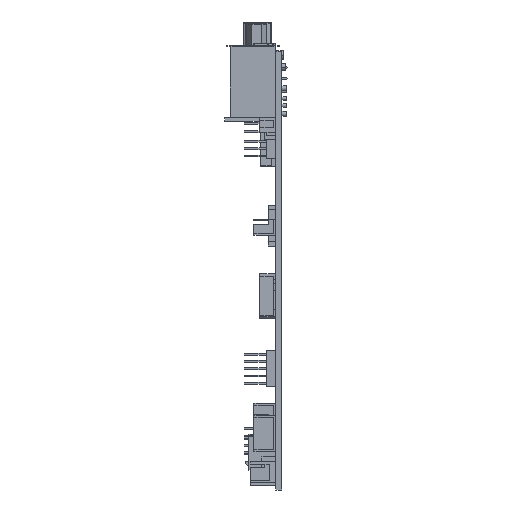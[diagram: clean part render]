
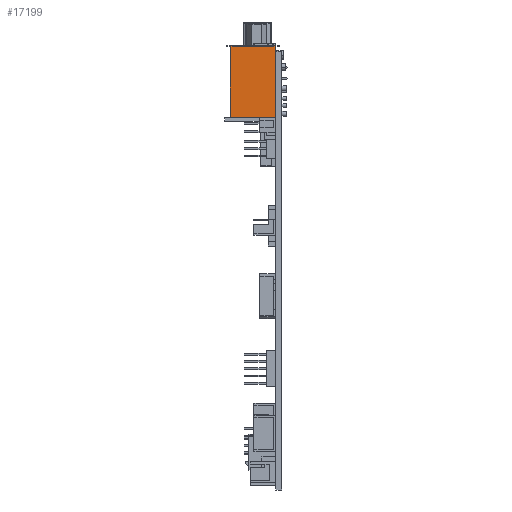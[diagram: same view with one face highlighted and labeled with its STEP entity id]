
A CAD part, left-side view. The second image highlights one B-rep face of the part: STEP entity #17199.
In plain terms, the highlighted planar face has unit normal (-1, 0, 0).
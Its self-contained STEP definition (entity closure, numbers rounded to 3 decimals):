
#180 = CARTESIAN_POINT ( 'NONE',  ( 13.819, 94.312, 188.428 ) ) ;
#1238 = ORIENTED_EDGE ( 'NONE', *, *, #45616, .F. ) ;
#1494 = VECTOR ( 'NONE', #14006, 1000. ) ;
#1788 = CARTESIAN_POINT ( 'NONE',  ( 13.819, 94.312, 188.428 ) ) ;
#2213 = CARTESIAN_POINT ( 'NONE',  ( 13.819, 94.312, 168.728 ) ) ;
#3101 = DIRECTION ( 'NONE',  ( 0., 0., 1. ) ) ;
#4082 = CARTESIAN_POINT ( 'NONE',  ( 13.819, 94.312, 168.728 ) ) ;
#4186 = EDGE_LOOP ( 'NONE', ( #13172, #12673, #47053, #38495, #6018, #4456, #31124, #6241, #23625, #6403, #28104, #1238 ) ) ;
#4456 = ORIENTED_EDGE ( 'NONE', *, *, #11268, .T. ) ;
#5184 = CARTESIAN_POINT ( 'NONE',  ( 13.819, 94.867, 188.428 ) ) ;
#5241 = VECTOR ( 'NONE', #36257, 1000. ) ;
#5852 = EDGE_CURVE ( 'NONE', #31156, #16318, #35708, .T. ) ;
#5894 = DIRECTION ( 'NONE',  ( 0., 0., 1. ) ) ;
#6018 = ORIENTED_EDGE ( 'NONE', *, *, #25395, .F. ) ;
#6241 = ORIENTED_EDGE ( 'NONE', *, *, #30442, .T. ) ;
#6403 = ORIENTED_EDGE ( 'NONE', *, *, #41467, .T. ) ;
#6500 = EDGE_CURVE ( 'NONE', #32785, #17979, #33671, .T. ) ;
#7746 = LINE ( 'NONE', #41483, #24609 ) ;
#8541 = VECTOR ( 'NONE', #46763, 1000. ) ;
#8565 = CARTESIAN_POINT ( 'NONE',  ( 13.819, 94.312, 188.428 ) ) ;
#8937 = EDGE_CURVE ( 'NONE', #11216, #10734, #32342, .T. ) ;
#9104 = CARTESIAN_POINT ( 'NONE',  ( 13.819, 106.256, 188.174 ) ) ;
#9794 = DIRECTION ( 'NONE',  ( 0., 0., 1. ) ) ;
#10281 = CARTESIAN_POINT ( 'NONE',  ( 13.819, 94.867, 188.174 ) ) ;
#10429 = EDGE_CURVE ( 'NONE', #46038, #18133, #32534, .T. ) ;
#10448 = CARTESIAN_POINT ( 'NONE',  ( 13.819, 94.312, 177.324 ) ) ;
#10640 = CARTESIAN_POINT ( 'NONE',  ( 13.819, 106.256, 188.174 ) ) ;
#10734 = VERTEX_POINT ( 'NONE', #8565 ) ;
#11092 = VERTEX_POINT ( 'NONE', #23419 ) ;
#11216 = VERTEX_POINT ( 'NONE', #10448 ) ;
#11268 = EDGE_CURVE ( 'NONE', #11092, #31156, #38317, .T. ) ;
#12673 = ORIENTED_EDGE ( 'NONE', *, *, #33925, .T. ) ;
#13172 = ORIENTED_EDGE ( 'NONE', *, *, #10429, .F. ) ;
#13504 = CARTESIAN_POINT ( 'NONE',  ( 13.819, 106.812, 168.728 ) ) ;
#13765 = CARTESIAN_POINT ( 'NONE',  ( 13.819, 94.312, 168.728 ) ) ;
#13938 = FACE_OUTER_BOUND ( 'NONE', #4186, .T. ) ;
#14006 = DIRECTION ( 'NONE',  ( 0., 0., 1. ) ) ;
#14287 = VECTOR ( 'NONE', #42366, 1000. ) ;
#14407 = CARTESIAN_POINT ( 'NONE',  ( 13.819, 94.312, 168.728 ) ) ;
#14546 = DIRECTION ( 'NONE',  ( 0., 1., 0. ) ) ;
#14565 = EDGE_CURVE ( 'NONE', #28579, #17979, #16914, .T. ) ;
#15833 = VECTOR ( 'NONE', #41495, 1000. ) ;
#16318 = VERTEX_POINT ( 'NONE', #36793 ) ;
#16914 = LINE ( 'NONE', #9104, #14287 ) ;
#16974 = CARTESIAN_POINT ( 'NONE',  ( 13.819, 106.256, 188.174 ) ) ;
#17199 = ADVANCED_FACE ( 'NONE', ( #13938 ), #28850, .T. ) ;
#17979 = VERTEX_POINT ( 'NONE', #33556 ) ;
#18133 = VERTEX_POINT ( 'NONE', #5184 ) ;
#18993 = DIRECTION ( 'NONE',  ( 0., 0., 1. ) ) ;
#19077 = CARTESIAN_POINT ( 'NONE',  ( 13.819, 106.812, 188.428 ) ) ;
#19832 = CARTESIAN_POINT ( 'NONE',  ( 13.819, 94.867, 188.174 ) ) ;
#20160 = DIRECTION ( 'NONE',  ( 0., 0., 1. ) ) ;
#20690 = VERTEX_POINT ( 'NONE', #22380 ) ;
#21813 = VECTOR ( 'NONE', #35039, 1000. ) ;
#22380 = CARTESIAN_POINT ( 'NONE',  ( 13.819, 94.312, 170.324 ) ) ;
#23419 = CARTESIAN_POINT ( 'NONE',  ( 13.819, 106.812, 168.728 ) ) ;
#23625 = ORIENTED_EDGE ( 'NONE', *, *, #39093, .T. ) ;
#23638 = CARTESIAN_POINT ( 'NONE',  ( 13.819, 94.312, 168.728 ) ) ;
#24278 = VERTEX_POINT ( 'NONE', #24985 ) ;
#24609 = VECTOR ( 'NONE', #18993, 1000. ) ;
#24985 = CARTESIAN_POINT ( 'NONE',  ( 13.819, 94.312, 176.013 ) ) ;
#25254 = CARTESIAN_POINT ( 'NONE',  ( 13.819, 94.312, 168.728 ) ) ;
#25395 = EDGE_CURVE ( 'NONE', #11092, #32785, #47005, .T. ) ;
#27226 = LINE ( 'NONE', #1788, #8541 ) ;
#28104 = ORIENTED_EDGE ( 'NONE', *, *, #8937, .T. ) ;
#28376 = CARTESIAN_POINT ( 'NONE',  ( 13.819, 94.312, 168.728 ) ) ;
#28579 = VERTEX_POINT ( 'NONE', #16974 ) ;
#28744 = VECTOR ( 'NONE', #34406, 1000. ) ;
#28850 = PLANE ( 'NONE',  #29186 ) ;
#29186 = AXIS2_PLACEMENT_3D ( 'NONE', #28376, #39395, #5894 ) ;
#30442 = EDGE_CURVE ( 'NONE', #16318, #20690, #37326, .T. ) ;
#31124 = ORIENTED_EDGE ( 'NONE', *, *, #5852, .T. ) ;
#31156 = VERTEX_POINT ( 'NONE', #14407 ) ;
#31520 = VECTOR ( 'NONE', #3101, 1000. ) ;
#32342 = LINE ( 'NONE', #25254, #1494 ) ;
#32534 = LINE ( 'NONE', #10281, #47015 ) ;
#32785 = VERTEX_POINT ( 'NONE', #19077 ) ;
#33556 = CARTESIAN_POINT ( 'NONE',  ( 13.819, 106.256, 188.428 ) ) ;
#33671 = LINE ( 'NONE', #180, #28744 ) ;
#33925 = EDGE_CURVE ( 'NONE', #46038, #28579, #36322, .T. ) ;
#34406 = DIRECTION ( 'NONE',  ( 0., -1., 0. ) ) ;
#35039 = DIRECTION ( 'NONE',  ( 0., 0., 1. ) ) ;
#35543 = LINE ( 'NONE', #13765, #5241 ) ;
#35708 = LINE ( 'NONE', #2213, #42023 ) ;
#36257 = DIRECTION ( 'NONE',  ( 0., 0., 1. ) ) ;
#36322 = LINE ( 'NONE', #10640, #39965 ) ;
#36793 = CARTESIAN_POINT ( 'NONE',  ( 13.819, 94.312, 169.013 ) ) ;
#37326 = LINE ( 'NONE', #4082, #31520 ) ;
#38317 = LINE ( 'NONE', #23638, #15833 ) ;
#38495 = ORIENTED_EDGE ( 'NONE', *, *, #6500, .F. ) ;
#39093 = EDGE_CURVE ( 'NONE', #20690, #24278, #7746, .T. ) ;
#39395 = DIRECTION ( 'NONE',  ( -1., 0., 0. ) ) ;
#39965 = VECTOR ( 'NONE', #14546, 1000. ) ;
#41467 = EDGE_CURVE ( 'NONE', #24278, #11216, #35543, .T. ) ;
#41483 = CARTESIAN_POINT ( 'NONE',  ( 13.819, 94.312, 168.728 ) ) ;
#41495 = DIRECTION ( 'NONE',  ( 0., -1., 0. ) ) ;
#42023 = VECTOR ( 'NONE', #9794, 1000. ) ;
#42366 = DIRECTION ( 'NONE',  ( 0., 0., 1. ) ) ;
#45616 = EDGE_CURVE ( 'NONE', #18133, #10734, #27226, .T. ) ;
#46038 = VERTEX_POINT ( 'NONE', #19832 ) ;
#46763 = DIRECTION ( 'NONE',  ( 0., -1., 0. ) ) ;
#47005 = LINE ( 'NONE', #13504, #21813 ) ;
#47015 = VECTOR ( 'NONE', #20160, 1000. ) ;
#47053 = ORIENTED_EDGE ( 'NONE', *, *, #14565, .T. ) ;
